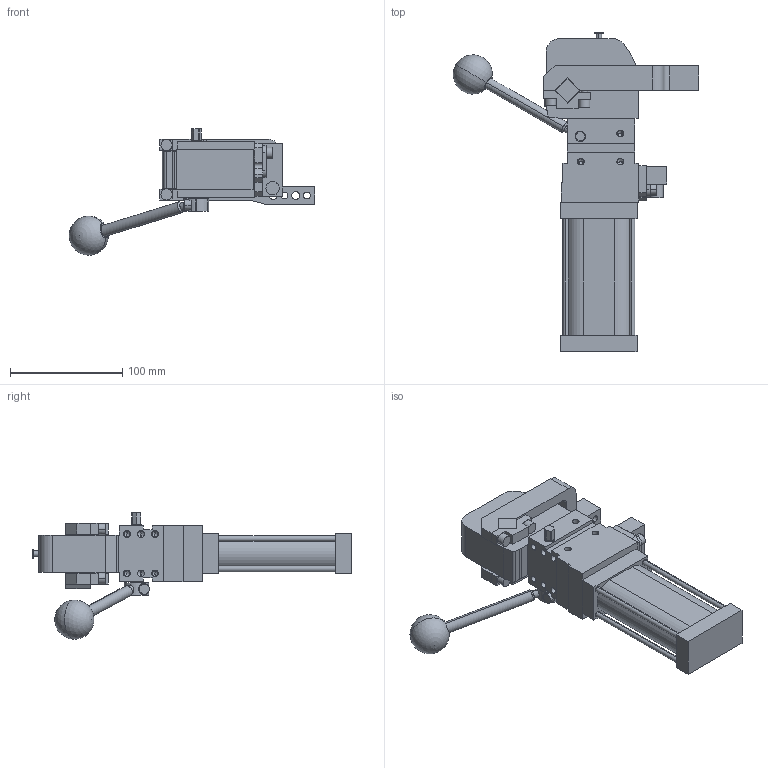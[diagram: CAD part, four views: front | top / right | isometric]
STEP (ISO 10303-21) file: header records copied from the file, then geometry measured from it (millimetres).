
FILE_DESCRIPTION (( 'STEP AP214' ), '1' );
FILE_NAME ('cplm40lbv2dsi1g_19.STEP', '2021-05-25T12:32:31', ( '' ), ( '' ), 'SwSTEP 2.0', 'SolidWorks 2021', '' );
FILE_SCHEMA (( 'AUTOMOTIVE_DESIGN' ));
Length unit declared in the file: millimetre
Products named in the file (6): blocchetto_VEP_0_cpl40; comando_manuale_cplm_40; meccanica_cplm40; leva_v2s_cpl40; cplm40lbv2dsi1g_19; piastra_blocchetto_cpl40
Assembly tree (5 placements, depth 2):
  cplm40lbv2dsi1g_19
    meccanica_cplm40
    blocchetto_VEP_0_cpl40
    piastra_blocchetto_cpl40
    leva_v2s_cpl40
    comando_manuale_cplm_40
Bounding box: 218.69 x 285 x 112.66 mm (x, y, z)
Volume: 801488.4 mm3; surface area: 124975 mm2
Topology: 6 solids, 6 shells, 457 faces, 1171 edges, 737 vertices
Faces by surface type: plane 255, cylinder 154, cone 46, sphere 2
Entity records: 15175 total; most frequent: CARTESIAN_POINT 2441, DIRECTION 2414, ORIENTED_EDGE 2248, EDGE_CURVE 1124, AXIS2_PLACEMENT_3D 829, VECTOR 756, LINE 756, VERTEX_POINT 734
